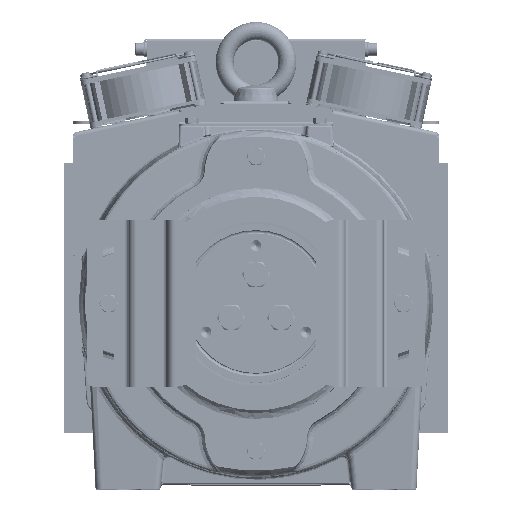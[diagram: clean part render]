
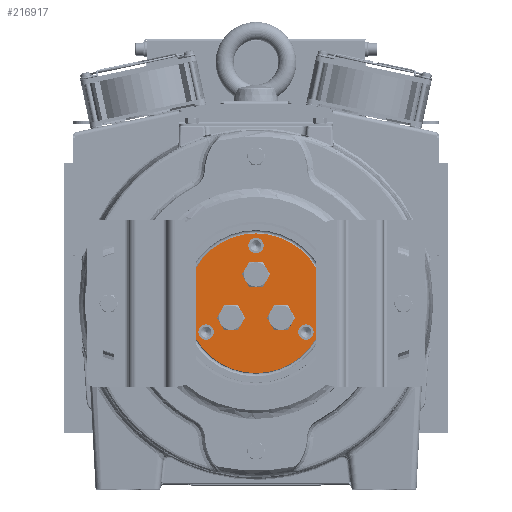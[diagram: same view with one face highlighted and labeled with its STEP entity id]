
A CAD part, top view. The second image highlights one B-rep face of the part: STEP entity #216917.
In plain terms, the highlighted planar face has unit normal (0, 0, 1) as drawn and (0, -1, 0) by its records, which use the part's own axes.
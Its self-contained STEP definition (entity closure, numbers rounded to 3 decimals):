
#216574=CARTESIAN_POINT('',(0.,0.,
0.));
#216575=DIRECTION('',(0.,-1.,0.));
#216576=DIRECTION('',(-1.,0.,0.));
#216577=AXIS2_PLACEMENT_3D('',#216574,#216575,#216576);
#216579=CARTESIAN_POINT('',(0.,0.,
0.));
#216580=DIRECTION('',(0.,-1.,0.));
#216581=DIRECTION('',(1.,0.,0.));
#216582=AXIS2_PLACEMENT_3D('',#216579,#216580,#216581);
#216584=CARTESIAN_POINT('',(0.,0.,-22.5));
#216585=DIRECTION('',(0.,-1.,0.));
#216586=DIRECTION('',(1.,0.,0.));
#216587=AXIS2_PLACEMENT_3D('',#216584,#216585,#216586);
#216589=CARTESIAN_POINT('',(0.,0.,-22.5));
#216590=DIRECTION('',(0.,-1.,0.));
#216591=DIRECTION('',(-1.,0.,0.));
#216592=AXIS2_PLACEMENT_3D('',#216589,#216590,#216591);
#216594=CARTESIAN_POINT('',(19.486,0.,11.25));
#216595=DIRECTION('',(0.,-1.,0.));
#216596=DIRECTION('',(-0.5,0.,0.866));
#216597=AXIS2_PLACEMENT_3D('',#216594,#216595,#216596);
#216599=CARTESIAN_POINT('',(19.486,0.,11.25));
#216600=DIRECTION('',(0.,-1.,0.));
#216601=DIRECTION('',(0.5,0.,-0.866));
#216602=AXIS2_PLACEMENT_3D('',#216599,#216600,#216601);
#216604=CARTESIAN_POINT('',(-19.486,0.,11.25));
#216605=DIRECTION('',(0.,-1.,0.));
#216606=DIRECTION('',(-0.5,0.,-0.866));
#216607=AXIS2_PLACEMENT_3D('',#216604,#216605,#216606);
#216609=CARTESIAN_POINT('',(-19.486,0.,11.25));
#216610=DIRECTION('',(0.,-1.,0.));
#216611=DIRECTION('',(0.5,0.,0.866));
#216612=AXIS2_PLACEMENT_3D('',#216609,#216610,#216611);
#216614=CARTESIAN_POINT('',(0.,0.,-45.));
#216615=DIRECTION('',(0.,-1.,0.));
#216616=DIRECTION('',(1.,0.,0.));
#216617=AXIS2_PLACEMENT_3D('',#216614,#216615,#216616);
#216619=CARTESIAN_POINT('',(0.,0.,-45.));
#216620=DIRECTION('',(0.,-1.,0.));
#216621=DIRECTION('',(-1.,0.,0.));
#216622=AXIS2_PLACEMENT_3D('',#216619,#216620,#216621);
#216624=CARTESIAN_POINT('',(38.971,0.,22.5));
#216625=DIRECTION('',(0.,-1.,0.));
#216626=DIRECTION('',(-0.5,0.,0.866));
#216627=AXIS2_PLACEMENT_3D('',#216624,#216625,#216626);
#216629=CARTESIAN_POINT('',(38.971,0.,22.5));
#216630=DIRECTION('',(0.,-1.,0.));
#216631=DIRECTION('',(0.5,0.,-0.866));
#216632=AXIS2_PLACEMENT_3D('',#216629,#216630,#216631);
#216634=CARTESIAN_POINT('',(-38.971,0.,22.5));
#216635=DIRECTION('',(0.,-1.,0.));
#216636=DIRECTION('',(-0.5,0.,-0.866));
#216637=AXIS2_PLACEMENT_3D('',#216634,#216635,#216636);
#216639=CARTESIAN_POINT('',(-38.971,0.,22.5));
#216640=DIRECTION('',(0.,-1.,0.));
#216641=DIRECTION('',(0.5,0.,0.866));
#216642=AXIS2_PLACEMENT_3D('',#216639,#216640,#216641);
#216818=CARTESIAN_POINT('',(6.5,0.,-22.5));
#216819=CARTESIAN_POINT('',(-6.5,0.,-22.5));
#216820=VERTEX_POINT('',#216818);
#216821=VERTEX_POINT('',#216819);
#216826=CARTESIAN_POINT('',(16.236,0.,16.879));
#216827=CARTESIAN_POINT('',(22.736,0.,5.621));
#216828=VERTEX_POINT('',#216826);
#216829=VERTEX_POINT('',#216827);
#216834=CARTESIAN_POINT('',(-22.736,0.,5.621));
#216835=CARTESIAN_POINT('',(-16.236,0.,16.879));
#216836=VERTEX_POINT('',#216834);
#216837=VERTEX_POINT('',#216835);
#216842=CARTESIAN_POINT('',(6.,0.,-45.));
#216843=CARTESIAN_POINT('',(-6.,0.,-45.));
#216844=VERTEX_POINT('',#216842);
#216845=VERTEX_POINT('',#216843);
#216850=CARTESIAN_POINT('',(35.971,0.,27.696));
#216851=CARTESIAN_POINT('',(41.971,0.,17.304));
#216852=VERTEX_POINT('',#216850);
#216853=VERTEX_POINT('',#216851);
#216858=CARTESIAN_POINT('',(-41.971,0.,17.304));
#216859=CARTESIAN_POINT('',(-35.971,0.,27.696));
#216860=VERTEX_POINT('',#216858);
#216861=VERTEX_POINT('',#216859);
#216866=CARTESIAN_POINT('',(-54.5,0.,0.));
#216867=CARTESIAN_POINT('',(54.5,0.,0.));
#216868=VERTEX_POINT('',#216866);
#216869=VERTEX_POINT('',#216867);
#216870=CARTESIAN_POINT('',(0.,0.,0.));
#216871=DIRECTION('',(0.,-1.,0.));
#216872=DIRECTION('',(-1.,0.,0.));
#216873=AXIS2_PLACEMENT_3D('',#216870,#216871,#216872);
#216874=PLANE('',#216873);
#216876=ORIENTED_EDGE('',*,*,#216875,.F.);
#216878=ORIENTED_EDGE('',*,*,#216877,.F.);
#216879=EDGE_LOOP('',(#216876,#216878));
#216880=FACE_OUTER_BOUND('',#216879,.F.);
#216882=ORIENTED_EDGE('',*,*,#216881,.T.);
#216884=ORIENTED_EDGE('',*,*,#216883,.T.);
#216885=EDGE_LOOP('',(#216882,#216884));
#216886=FACE_BOUND('',#216885,.F.);
#216888=ORIENTED_EDGE('',*,*,#216887,.T.);
#216890=ORIENTED_EDGE('',*,*,#216889,.T.);
#216891=EDGE_LOOP('',(#216888,#216890));
#216892=FACE_BOUND('',#216891,.F.);
#216894=ORIENTED_EDGE('',*,*,#216893,.T.);
#216896=ORIENTED_EDGE('',*,*,#216895,.T.);
#216897=EDGE_LOOP('',(#216894,#216896));
#216898=FACE_BOUND('',#216897,.F.);
#216900=ORIENTED_EDGE('',*,*,#216899,.T.);
#216902=ORIENTED_EDGE('',*,*,#216901,.T.);
#216903=EDGE_LOOP('',(#216900,#216902));
#216904=FACE_BOUND('',#216903,.F.);
#216906=ORIENTED_EDGE('',*,*,#216905,.T.);
#216908=ORIENTED_EDGE('',*,*,#216907,.T.);
#216909=EDGE_LOOP('',(#216906,#216908));
#216910=FACE_BOUND('',#216909,.F.);
#216912=ORIENTED_EDGE('',*,*,#216911,.T.);
#216914=ORIENTED_EDGE('',*,*,#216913,.T.);
#216915=EDGE_LOOP('',(#216912,#216914));
#216916=FACE_BOUND('',#216915,.F.);
#216917=ADVANCED_FACE('',(#216880,#216886,#216892,#216898,#216904,#216910,
#216916),#216874,.T.);
#216578=CIRCLE('',#216577,54.5);
#216583=CIRCLE('',#216582,54.5);
#216588=CIRCLE('',#216587,6.5);
#216593=CIRCLE('',#216592,6.5);
#216598=CIRCLE('',#216597,6.5);
#216603=CIRCLE('',#216602,6.5);
#216608=CIRCLE('',#216607,6.5);
#216613=CIRCLE('',#216612,6.5);
#216618=CIRCLE('',#216617,6.);
#216623=CIRCLE('',#216622,6.);
#216628=CIRCLE('',#216627,6.);
#216633=CIRCLE('',#216632,6.);
#216638=CIRCLE('',#216637,6.);
#216643=CIRCLE('',#216642,6.);
#216875=EDGE_CURVE('',#216868,#216869,#216578,.T.);
#216877=EDGE_CURVE('',#216869,#216868,#216583,.T.);
#216881=EDGE_CURVE('',#216820,#216821,#216588,.T.);
#216883=EDGE_CURVE('',#216821,#216820,#216593,.T.);
#216887=EDGE_CURVE('',#216828,#216829,#216598,.T.);
#216889=EDGE_CURVE('',#216829,#216828,#216603,.T.);
#216893=EDGE_CURVE('',#216836,#216837,#216608,.T.);
#216895=EDGE_CURVE('',#216837,#216836,#216613,.T.);
#216899=EDGE_CURVE('',#216844,#216845,#216618,.T.);
#216901=EDGE_CURVE('',#216845,#216844,#216623,.T.);
#216905=EDGE_CURVE('',#216852,#216853,#216628,.T.);
#216907=EDGE_CURVE('',#216853,#216852,#216633,.T.);
#216911=EDGE_CURVE('',#216860,#216861,#216638,.T.);
#216913=EDGE_CURVE('',#216861,#216860,#216643,.T.);
